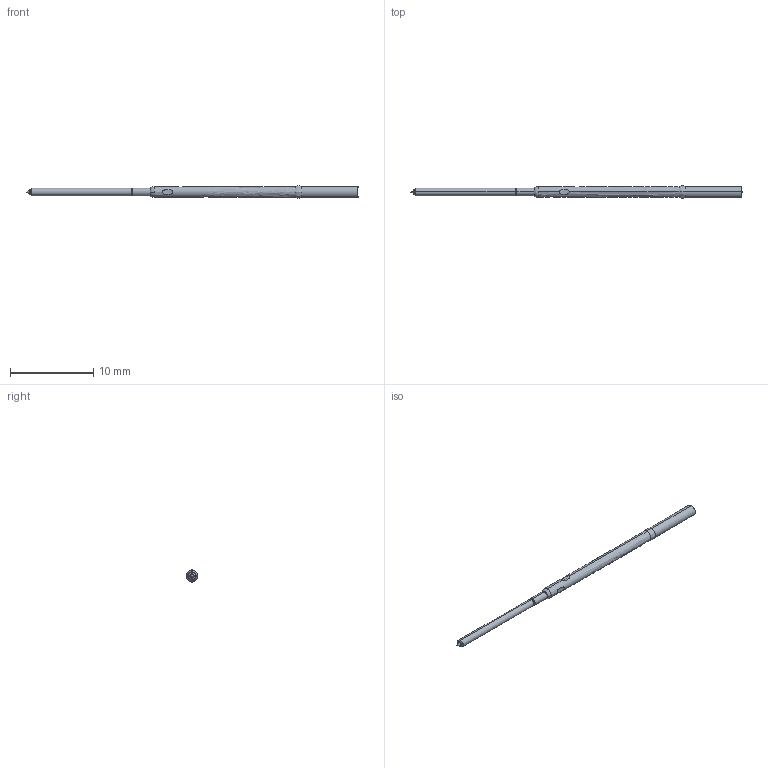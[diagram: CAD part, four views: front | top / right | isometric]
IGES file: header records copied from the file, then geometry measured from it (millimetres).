
Start section: SolidWorks IGES file using analytic representation for surfaces
Global section: file name: Z:\probe solid model mockups\Solidworks models\DER-075\DER-075B Full.IGS; native system: SolidWorks 2006 by SolidWorks Corporation; preprocessor: SolidWorks 2006 by SolidWorks Corporation; author: tsakatani; date: 071218.084755; units: inch
Bounding box: 39.87 x 1.46 x 1.47 mm (x, y, z)
Surface area: 230.1 mm2 (no closed solid volume)
Topology: 0 solids, 0 shells, 38 faces, 378 edges, 376 vertices
Faces by surface type: revolution 31, bspline 7
